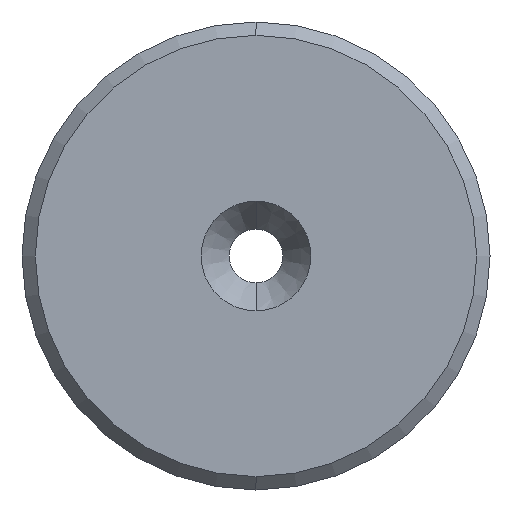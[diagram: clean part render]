
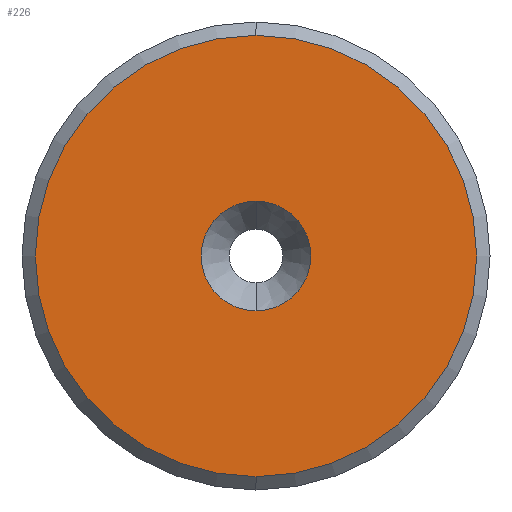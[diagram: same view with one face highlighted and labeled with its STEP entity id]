
A CAD part, left-side view. The second image highlights one B-rep face of the part: STEP entity #226.
In plain terms, the highlighted planar face has unit normal (-1, 0, 0).
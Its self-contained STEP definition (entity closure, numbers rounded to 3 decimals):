
#23 = AXIS2_PLACEMENT_3D ( 'NONE', #376, #367, #366 ) ;
#24 = FACE_OUTER_BOUND ( 'NONE', #185, .T. ) ;
#26 = CIRCLE ( 'NONE', #23, 16.5 ) ;
#33 = CIRCLE ( 'NONE', #175, 4.101 ) ;
#80 = CARTESIAN_POINT ( 'NONE',  ( 0., 0., 0. ) ) ;
#82 = AXIS2_PLACEMENT_3D ( 'NONE', #80, #346, #120 ) ;
#117 = CARTESIAN_POINT ( 'NONE',  ( 0., 0., 16.5 ) ) ;
#120 = DIRECTION ( 'NONE',  ( 0., 0., 1. ) ) ;
#126 = AXIS2_PLACEMENT_3D ( 'NONE', #293, #292, #289 ) ;
#143 = VERTEX_POINT ( 'NONE', #193 ) ;
#175 = AXIS2_PLACEMENT_3D ( 'NONE', #216, #240, #308 ) ;
#181 = AXIS2_PLACEMENT_3D ( 'NONE', #347, #390, #197 ) ;
#185 = EDGE_LOOP ( 'NONE', ( #474, #481 ) ) ;
#193 = CARTESIAN_POINT ( 'NONE',  ( 0., 0., -16.5 ) ) ;
#197 = DIRECTION ( 'NONE',  ( 0., 0., -1. ) ) ;
#204 = VERTEX_POINT ( 'NONE', #228 ) ;
#210 = EDGE_CURVE ( 'NONE', #204, #249, #335, .T. ) ;
#216 = CARTESIAN_POINT ( 'NONE',  ( 0., 0., 0. ) ) ;
#217 = VERTEX_POINT ( 'NONE', #117 ) ;
#226 = ADVANCED_FACE ( 'NONE', ( #24, #358 ), #265, .F. ) ;
#228 = CARTESIAN_POINT ( 'NONE',  ( 0., 0., -4.101 ) ) ;
#240 = DIRECTION ( 'NONE',  ( -1., 0., 0. ) ) ;
#249 = VERTEX_POINT ( 'NONE', #470 ) ;
#265 = PLANE ( 'NONE',  #181 ) ;
#289 = DIRECTION ( 'NONE',  ( 0., 0., -1. ) ) ;
#292 = DIRECTION ( 'NONE',  ( -1., 0., 0. ) ) ;
#293 = CARTESIAN_POINT ( 'NONE',  ( 0., 0., 0. ) ) ;
#308 = DIRECTION ( 'NONE',  ( 0., 0., 1. ) ) ;
#334 = CIRCLE ( 'NONE', #126, 16.5 ) ;
#335 = CIRCLE ( 'NONE', #82, 4.101 ) ;
#346 = DIRECTION ( 'NONE',  ( -1., 0., 0. ) ) ;
#347 = CARTESIAN_POINT ( 'NONE',  ( 0., 4.101, 0. ) ) ;
#356 = EDGE_CURVE ( 'NONE', #143, #217, #26, .T. ) ;
#358 = FACE_BOUND ( 'NONE', #487, .T. ) ;
#366 = DIRECTION ( 'NONE',  ( 0., 0., -1. ) ) ;
#367 = DIRECTION ( 'NONE',  ( -1., 0., 0. ) ) ;
#376 = CARTESIAN_POINT ( 'NONE',  ( 0., 0., 0. ) ) ;
#390 = DIRECTION ( 'NONE',  ( 1., 0., 0. ) ) ;
#405 = EDGE_CURVE ( 'NONE', #217, #143, #334, .T. ) ;
#440 = EDGE_CURVE ( 'NONE', #249, #204, #33, .T. ) ;
#470 = CARTESIAN_POINT ( 'NONE',  ( 0., 0., 4.101 ) ) ;
#474 = ORIENTED_EDGE ( 'NONE', *, *, #356, .T. ) ;
#481 = ORIENTED_EDGE ( 'NONE', *, *, #405, .T. ) ;
#485 = ORIENTED_EDGE ( 'NONE', *, *, #440, .F. ) ;
#487 = EDGE_LOOP ( 'NONE', ( #485, #489 ) ) ;
#489 = ORIENTED_EDGE ( 'NONE', *, *, #210, .F. ) ;
